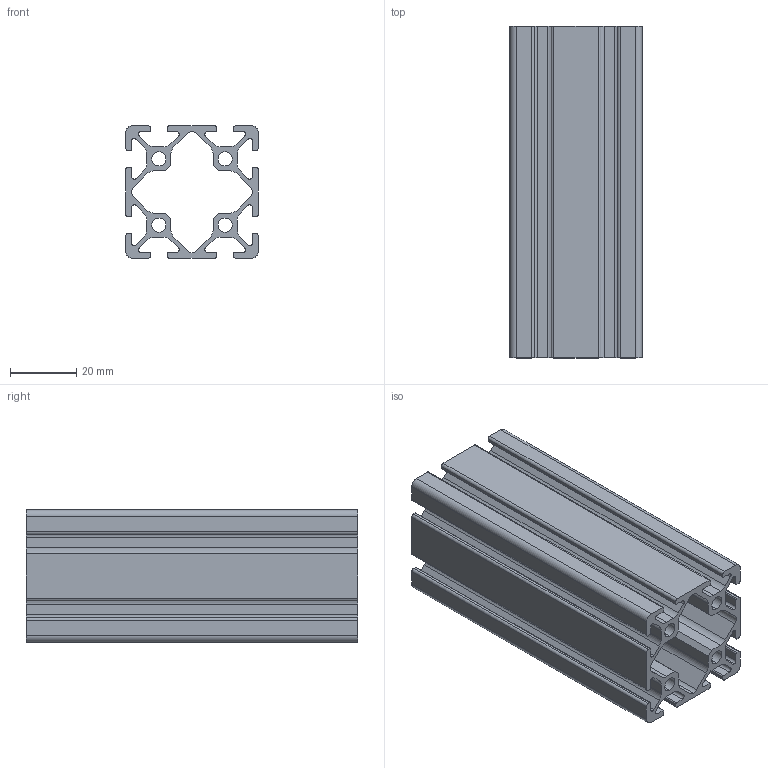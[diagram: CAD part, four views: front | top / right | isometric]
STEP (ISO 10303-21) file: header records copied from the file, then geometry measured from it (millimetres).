
FILE_DESCRIPTION (( 'STEP AP203' ), '1' );
FILE_NAME ('0105P4040.STEP', '2024-02-27T13:28:09', ( 'Windows-Benutzer' ), ( '' ), 'SwSTEP 2.0', 'SolidWorks 2023', '' );
FILE_SCHEMA (( 'CONFIG_CONTROL_DESIGN' ));
Length unit declared in the file: millimetre
Products named in the file (1): 0105P4040
Bounding box: 40 x 100 x 40 mm (x, y, z)
Volume: 46952.7 mm3; surface area: 50497.7 mm2
Topology: 1 solids, 1 shells, 183 faces, 543 edges, 362 vertices
Faces by surface type: cylinder 93, plane 90
Entity records: 6280 total; most frequent: DIRECTION 1097, CARTESIAN_POINT 1089, ORIENTED_EDGE 1086, EDGE_CURVE 543, AXIS2_PLACEMENT_3D 370, VERTEX_POINT 362, LINE 357, VECTOR 357
